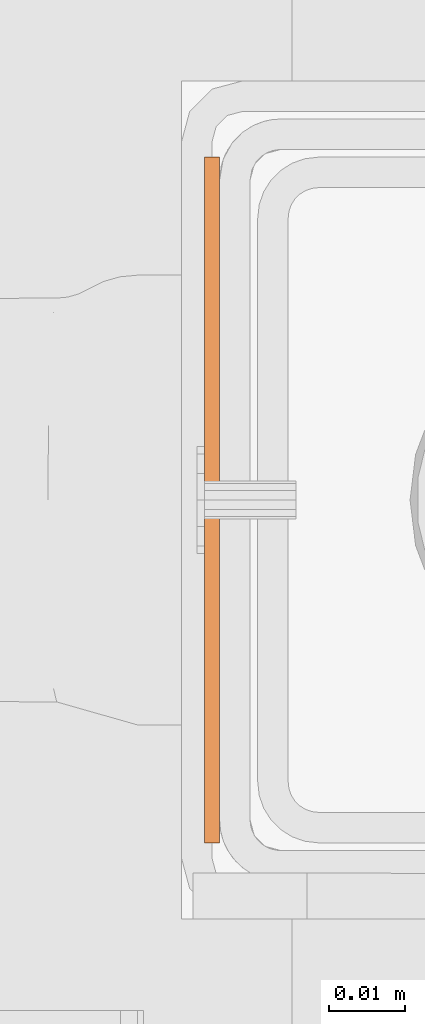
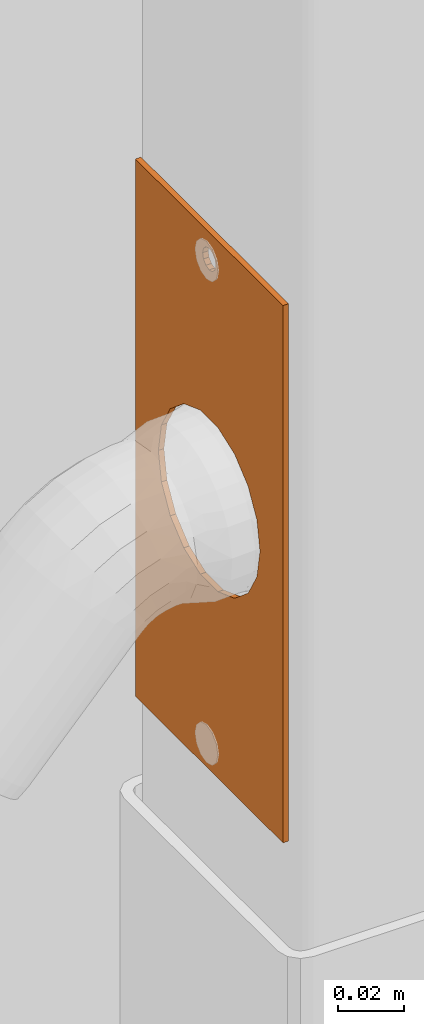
# One storey, part 94 of 116: 1 proxy.
"""IFC2X3 building model written with IfcOpenShell, lengths in millimetres."""

from ifc_helpers import new_model, entity, si_unit, converted_unit, origin_with_axes, place, context, project, spatial, faceted_brep, material, element, save


model = new_model("IFC2X3")

# Units and contexts
model_context = context("Model", 3, precision=1e-09, world=origin_with_axes())
ifc_project = project(units=[si_unit("LENGTHUNIT", "METRE", prefix="MILLI"), si_unit("AREAUNIT", "SQUARE_METRE"), si_unit("VOLUMEUNIT", "CUBIC_METRE"), converted_unit("PLANEANGLEUNIT", "DEGREE", entity("IfcPlaneAngleMeasure", 0.01745329), si_unit("PLANEANGLEUNIT", "RADIAN"), dimensions=[0, 0, 0, 0, 0, 0, 0])], contexts=[model_context])

# Site, building, storey
site_placement = place(None, origin_with_axes())
site = spatial("IfcSite", under=ifc_project, at=site_placement, Name="Site", CompositionType="ELEMENT")
building_placement = place(site_placement, origin_with_axes())
building = spatial("IfcBuilding", under=site, at=building_placement, Name="Struktur 1", CompositionType="ELEMENT")
storey_placement = place(building_placement, origin_with_axes())
storey = spatial("IfcBuildingStorey", under=building, at=storey_placement, Name="Default Storey", CompositionType="ELEMENT", Elevation=0.0)

# Proxy
ifc_material = material(Name="Kein")
proxy_placement = place(None, origin_with_axes())
element("IfcBuildingElementProxy", 1, at=proxy_placement, inside=storey, material=ifc_material, ObjectType="-", context=model_context, shape_type="Brep", body=[
    faceted_brep([(55287.049134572, 11917.358883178, -1997.0), (55287.049134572, 12007.358883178, -1997.0), (55287.049134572, 12007.358883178, -1797.0), (55287.049134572, 11917.358883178, -1797.0), (55287.049134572, 11962.358883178, -1811.001), (55287.049134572, 11960.358383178, -1810.46496764), (55287.049134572, 11958.893915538, -1809.0005), (55287.049134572, 11958.357883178, -1807.0), (55287.049134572, 11958.893915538, -1804.9995), (55287.049134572, 11960.358383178, -1803.535032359), (55287.049134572, 11962.358883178, -1802.999), (55287.049134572, 11964.359383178, -1803.535032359), (55287.049134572, 11965.823850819, -1804.9995), (55287.049134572, 11966.359883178, -1807.0), (55287.049134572, 11965.823850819, -1809.0005), (55287.049134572, 11964.359383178, -1810.46496764), (55287.049134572, 11977.859383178, -1870.152346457), (55287.049134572, 11986.107026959, -1877.072941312), (55287.049134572, 11991.490294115, -1886.397033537), (55287.049134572, 11993.359883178, -1897.0), (55287.049134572, 11991.490294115, -1907.602966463), (55287.049134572, 11986.107026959, -1916.927058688), (55287.049134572, 11977.859383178, -1923.847653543), (55287.049134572, 11967.742150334, -1927.530025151), (55287.049134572, 11956.975616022, -1927.530025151), (55287.049134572, 11946.858383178, -1923.847653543), (55287.049134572, 11938.610739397, -1916.927058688), (55287.049134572, 11933.227472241, -1907.602966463), (55287.049134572, 11931.357883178, -1897.0), (55287.049134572, 11933.227472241, -1886.397033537), (55287.049134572, 11938.610739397, -1877.072941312), (55287.049134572, 11946.858383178, -1870.152346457), (55287.049134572, 11956.975616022, -1866.469974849), (55287.049134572, 11967.742150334, -1866.469974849), (55285.049134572, 11964.359383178, -1810.46496764), (55285.049134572, 11965.823850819, -1809.0005), (55287.049134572, 11965.823850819, -1984.9995), (55285.049134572, 11965.823850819, -1984.9995), (55285.049134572, 11966.359883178, -1987.0), (55287.049134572, 11966.359883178, -1987.0), (55285.049134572, 11966.359883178, -1807.0), (55285.049134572, 11977.859383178, -1870.152346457), (55285.049134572, 11967.742150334, -1866.469974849), (55285.049134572, 11962.358883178, -1811.001), (55285.049134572, 12007.358883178, -1997.0), (55285.049134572, 11917.358883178, -1997.0), (55285.049134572, 11917.358883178, -1797.0), (55285.049134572, 12007.358883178, -1797.0), (55285.049134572, 11965.823850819, -1804.9995), (55285.049134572, 11964.359383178, -1803.535032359), (55285.049134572, 11962.358883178, -1802.999), (55285.049134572, 11960.358383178, -1803.535032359), (55285.049134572, 11958.893915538, -1804.9995), (55285.049134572, 11958.357883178, -1807.0), (55285.049134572, 11958.893915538, -1809.0005), (55285.049134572, 11960.358383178, -1810.46496764), (55285.049134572, 11946.858383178, -1870.152346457), (55285.049134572, 11938.610739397, -1877.072941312), (55285.049134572, 11933.227472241, -1886.397033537), (55285.049134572, 11931.357883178, -1897.0), (55285.049134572, 11933.227472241, -1907.602966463), (55285.049134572, 11938.610739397, -1916.927058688), (55285.049134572, 11946.858383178, -1923.847653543), (55285.049134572, 11956.975616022, -1927.530025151), (55285.049134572, 11967.742150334, -1927.530025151), (55285.049134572, 11977.859383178, -1923.847653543), (55285.049134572, 11986.107026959, -1916.927058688), (55285.049134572, 11991.490294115, -1907.602966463), (55285.049134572, 11993.359883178, -1897.0), (55285.049134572, 11991.490294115, -1886.397033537), (55285.049134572, 11986.107026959, -1877.072941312), (55285.049134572, 11956.975616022, -1866.469974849), (55287.049134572, 11964.359383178, -1983.535032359), (55285.049134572, 11964.359383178, -1983.535032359), (55285.049134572, 11965.823850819, -1989.0005), (55287.049134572, 11965.823850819, -1989.0005), (55287.049134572, 11962.358883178, -1982.999), (55285.049134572, 11962.358883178, -1982.999), (55285.049134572, 11964.359383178, -1990.46496764), (55287.049134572, 11964.359383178, -1990.46496764), (55287.049134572, 11960.358383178, -1983.535032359), (55285.049134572, 11960.358383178, -1983.535032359), (55285.049134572, 11962.358883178, -1991.001), (55287.049134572, 11962.358883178, -1991.001), (55285.049134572, 11960.358383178, -1990.46496764), (55287.049134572, 11960.358383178, -1990.46496764), (55287.049134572, 11958.893915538, -1984.9995), (55285.049134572, 11958.893915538, -1984.9995), (55285.049134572, 11958.893915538, -1989.0005), (55287.049134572, 11958.893915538, -1989.0005), (55287.049134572, 11958.357883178, -1987.0), (55285.049134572, 11958.357883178, -1987.0)], [[[0, 1, 2, 3], [4, 5, 6, 7, 8, 9, 10, 11, 12, 13, 14, 15], [16, 17, 18, 19, 20, 21, 22, 23, 24, 25, 26, 27, 28, 29, 30, 31, 32, 33]], [[34, 15, 14, 35]], [[36, 37, 38, 39]], [[35, 14, 13, 40]], [[41, 16, 33, 42]], [[15, 34, 43, 4]], [[44, 45, 46, 47], [35, 40, 48, 49, 50, 51, 52, 53, 54, 55, 43, 34], [56, 57, 58, 59, 60, 61, 62, 63, 64, 65, 66, 67, 68, 69, 70, 41, 42, 71]], [[72, 73, 37, 36]], [[65, 22, 21, 66]], [[16, 41, 70, 17]], [[39, 38, 74, 75]], [[66, 21, 20, 67]], [[73, 72, 76, 77]], [[22, 65, 64, 23]], [[17, 70, 69, 18]], [[40, 13, 12, 48]], [[55, 5, 4, 43]], [[42, 33, 32, 71]], [[75, 74, 78, 79]], [[67, 20, 19, 68]], [[68, 19, 18, 69]], [[80, 81, 77, 76]], [[48, 12, 11, 49]], [[5, 55, 54, 6]], [[79, 78, 82, 83]], [[23, 64, 63, 24]], [[83, 82, 84, 85]], [[81, 80, 86, 87]], [[51, 9, 8, 52]], [[49, 11, 10, 50]], [[50, 10, 9, 51]], [[52, 8, 7, 53]], [[53, 7, 6, 54]], [[71, 32, 31, 56]], [[85, 84, 88, 89]], [[2, 1, 44, 47]], [[24, 63, 62, 25]], [[90, 91, 87, 86]], [[89, 88, 91, 90]], [[56, 31, 30, 57]], [[45, 44, 1, 0]], [[3, 2, 47, 46]], [[25, 62, 61, 26]], [[57, 30, 29, 58]], [[46, 45, 0, 3]], [[26, 61, 60, 27]], [[58, 29, 28, 59]], [[27, 60, 59, 28]]]),
])

save(model, "model.ifc")
